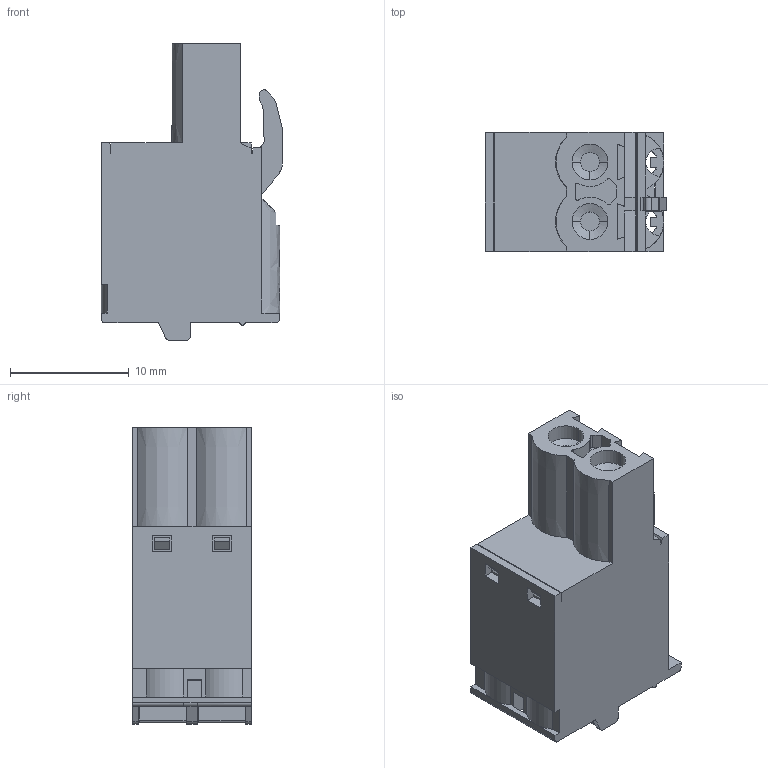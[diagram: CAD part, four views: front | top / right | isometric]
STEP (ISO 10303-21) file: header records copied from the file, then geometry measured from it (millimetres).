
FILE_DESCRIPTION(('FreeCAD Model'),'2;1');
FILE_NAME('Open CASCADE Shape Model','2023-04-26T12:09:40',('Author'),( ''),'Open CASCADE STEP processor 7.6','FreeCAD','Unknown');
FILE_SCHEMA(('AUTOMOTIVE_DESIGN { 1 0 10303 214 1 1 1 1 }'));
Length unit declared in the file: millimetre
Products named in the file (1): BR1702-FM
Bounding box: 15.25 x 10 x 24.95 mm (x, y, z)
Surface area: 2583.2 mm2 (no closed solid volume)
Topology: 0 solids, 1 shells, 434 faces, 1243 edges, 804 vertices
Faces by surface type: plane 340, bspline 70, cylinder 12, cone 12
Full cylindrical faces by diameter (mm): 4 x1
Entity records: 32681 total; most frequent: CARTESIAN_POINT 8828, DIRECTION 4121, LINE 3024, VECTOR 3024, ORIENTED_EDGE 2482, PCURVE 2482, DEFINITIONAL_REPRESENTATION 2482, EDGE_CURVE 1243
